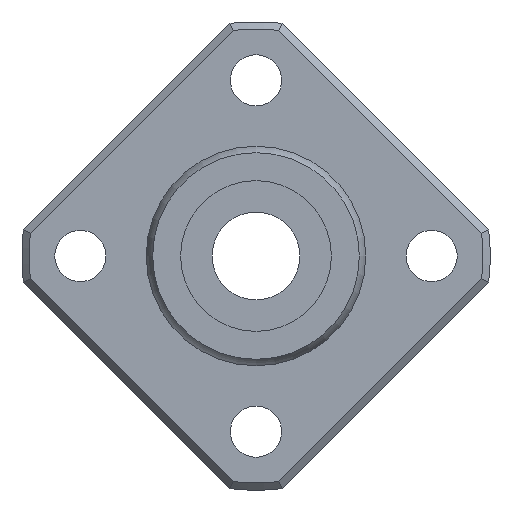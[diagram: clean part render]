
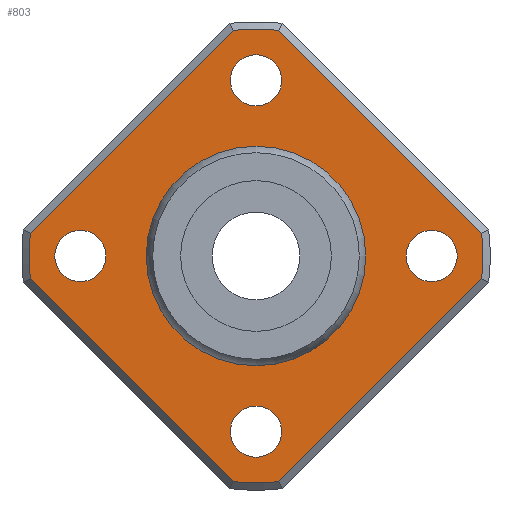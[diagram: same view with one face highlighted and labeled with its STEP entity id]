
A CAD part, left-side view. The second image highlights one B-rep face of the part: STEP entity #803.
In plain terms, the highlighted planar face has unit normal (-1, 0, 0).
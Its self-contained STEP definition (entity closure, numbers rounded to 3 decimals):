
#490=CARTESIAN_POINT('',(17.0,-1.548,-15.422));
#491=VERTEX_POINT('',#490);
#499=CARTESIAN_POINT('',(17.0,1.548,-15.422));
#500=VERTEX_POINT('',#499);
#501=CARTESIAN_POINT('',(17.0,0.0,0.0));
#502=DIRECTION('',(1.0,0.0,0.0));
#503=DIRECTION('',(0.0,0.0,-1.0));
#504=AXIS2_PLACEMENT_3D('',#501,#502,#503);
#505=CIRCLE('',#504,15.5);
#506=EDGE_CURVE('',#491,#500,#505,.T.);
#525=CARTESIAN_POINT('',(17.0,15.422,-1.548));
#526=VERTEX_POINT('',#525);
#527=CARTESIAN_POINT('',(17.0,1.548,-15.422));
#528=DIRECTION('',(0.0,0.707,0.707));
#529=VECTOR('',#528,19.621);
#530=LINE('',#527,#529);
#531=EDGE_CURVE('',#500,#526,#530,.T.);
#558=CARTESIAN_POINT('',(17.0,15.422,1.548));
#559=VERTEX_POINT('',#558);
#560=CARTESIAN_POINT('',(17.0,0.0,0.0));
#561=DIRECTION('',(1.0,0.0,0.0));
#562=DIRECTION('',(0.0,0.0,1.0));
#563=AXIS2_PLACEMENT_3D('',#560,#561,#562);
#564=CIRCLE('',#563,15.5);
#565=EDGE_CURVE('',#526,#559,#564,.T.);
#591=CARTESIAN_POINT('',(17.0,1.548,15.422));
#592=VERTEX_POINT('',#591);
#593=CARTESIAN_POINT('',(17.0,15.422,1.548));
#594=DIRECTION('',(0.0,-0.707,0.707));
#595=VECTOR('',#594,19.621);
#596=LINE('',#593,#595);
#597=EDGE_CURVE('',#559,#592,#596,.T.);
#624=CARTESIAN_POINT('',(17.0,-1.548,15.422));
#625=VERTEX_POINT('',#624);
#626=CARTESIAN_POINT('',(17.0,0.0,0.0));
#627=DIRECTION('',(1.0,0.0,0.0));
#628=DIRECTION('',(0.0,0.0,1.0));
#629=AXIS2_PLACEMENT_3D('',#626,#627,#628);
#630=CIRCLE('',#629,15.5);
#631=EDGE_CURVE('',#592,#625,#630,.T.);
#655=CARTESIAN_POINT('',(17.0,-15.422,1.548));
#656=VERTEX_POINT('',#655);
#657=CARTESIAN_POINT('',(17.0,-1.548,15.422));
#658=DIRECTION('',(0.0,-0.707,-0.707));
#659=VECTOR('',#658,19.621);
#660=LINE('',#657,#659);
#661=EDGE_CURVE('',#625,#656,#660,.T.);
#680=CARTESIAN_POINT('',(17.0,-15.422,-1.548));
#681=VERTEX_POINT('',#680);
#682=CARTESIAN_POINT('',(17.0,0.0,0.0));
#683=DIRECTION('',(1.0,0.0,0.0));
#684=DIRECTION('',(0.0,0.0,1.0));
#685=AXIS2_PLACEMENT_3D('',#682,#683,#684);
#686=CIRCLE('',#685,15.5);
#687=EDGE_CURVE('',#656,#681,#686,.T.);
#706=CARTESIAN_POINT('',(17.0,-15.422,-1.548));
#707=DIRECTION('',(0.0,0.707,-0.707));
#708=VECTOR('',#707,19.621);
#709=LINE('',#706,#708);
#710=EDGE_CURVE('',#681,#491,#709,.T.);
#733=CARTESIAN_POINT('',(17.0,0.0,11.655));
#734=DIRECTION('',(-1.0,0.0,0.0));
#735=DIRECTION('',(0.0,0.0,1.0));
#736=AXIS2_PLACEMENT_3D('',#733,#734,#735);
#737=PLANE('',#736);
#738=ORIENTED_EDGE('',*,*,#506,.F.);
#739=ORIENTED_EDGE('',*,*,#710,.F.);
#740=ORIENTED_EDGE('',*,*,#687,.F.);
#741=ORIENTED_EDGE('',*,*,#661,.F.);
#742=ORIENTED_EDGE('',*,*,#631,.F.);
#743=ORIENTED_EDGE('',*,*,#597,.F.);
#744=ORIENTED_EDGE('',*,*,#565,.F.);
#745=ORIENTED_EDGE('',*,*,#531,.F.);
#746=EDGE_LOOP('',(#738,#739,#740,#741,#742,#743,#744,#745));
#747=FACE_OUTER_BOUND('',#746,.T.);
#748=CARTESIAN_POINT('',(17.0,0.0,7.309));
#749=VERTEX_POINT('',#748);
#750=CARTESIAN_POINT('',(17.0,0.0,0.0));
#751=DIRECTION('',(-1.0,0.0,0.0));
#752=DIRECTION('',(0.0,0.0,1.0));
#753=AXIS2_PLACEMENT_3D('',#750,#751,#752);
#754=CIRCLE('',#753,7.309);
#755=EDGE_CURVE('',#749,#749,#754,.T.);
#756=ORIENTED_EDGE('',*,*,#755,.F.);
#757=EDGE_LOOP('',(#756));
#758=FACE_BOUND('',#757,.T.);
#759=CARTESIAN_POINT('',(17.0,10.25,0.));
#760=VERTEX_POINT('',#759);
#761=CARTESIAN_POINT('',(17.0,12.,0.0));
#762=DIRECTION('',(1.0,0.0,0.0));
#763=DIRECTION('',(0.0,1.0,0.0));
#764=AXIS2_PLACEMENT_3D('',#761,#762,#763);
#765=CIRCLE('',#764,1.75);
#766=EDGE_CURVE('',#760,#760,#765,.T.);
#767=ORIENTED_EDGE('',*,*,#766,.T.);
#768=EDGE_LOOP('',(#767));
#769=FACE_BOUND('',#768,.T.);
#770=CARTESIAN_POINT('',(17.0,-13.75,0.));
#771=VERTEX_POINT('',#770);
#772=CARTESIAN_POINT('',(17.0,-12.,0.0));
#773=DIRECTION('',(1.0,0.0,0.0));
#774=DIRECTION('',(0.0,1.0,0.0));
#775=AXIS2_PLACEMENT_3D('',#772,#773,#774);
#776=CIRCLE('',#775,1.75);
#777=EDGE_CURVE('',#771,#771,#776,.T.);
#778=ORIENTED_EDGE('',*,*,#777,.T.);
#779=EDGE_LOOP('',(#778));
#780=FACE_BOUND('',#779,.T.);
#781=CARTESIAN_POINT('',(17.0,-1.75,12.));
#782=VERTEX_POINT('',#781);
#783=CARTESIAN_POINT('',(17.0,0.0,12.));
#784=DIRECTION('',(1.0,0.0,0.0));
#785=DIRECTION('',(0.0,1.0,0.0));
#786=AXIS2_PLACEMENT_3D('',#783,#784,#785);
#787=CIRCLE('',#786,1.75);
#788=EDGE_CURVE('',#782,#782,#787,.T.);
#789=ORIENTED_EDGE('',*,*,#788,.T.);
#790=EDGE_LOOP('',(#789));
#791=FACE_BOUND('',#790,.T.);
#792=CARTESIAN_POINT('',(17.0,-1.75,-12.));
#793=VERTEX_POINT('',#792);
#794=CARTESIAN_POINT('',(17.0,0.0,-12.));
#795=DIRECTION('',(1.0,0.0,0.0));
#796=DIRECTION('',(0.0,1.0,0.0));
#797=AXIS2_PLACEMENT_3D('',#794,#795,#796);
#798=CIRCLE('',#797,1.75);
#799=EDGE_CURVE('',#793,#793,#798,.T.);
#800=ORIENTED_EDGE('',*,*,#799,.T.);
#801=EDGE_LOOP('',(#800));
#802=FACE_BOUND('',#801,.T.);
#803=ADVANCED_FACE('',(#747,#758,#769,#780,#791,#802),#737,.T.);
